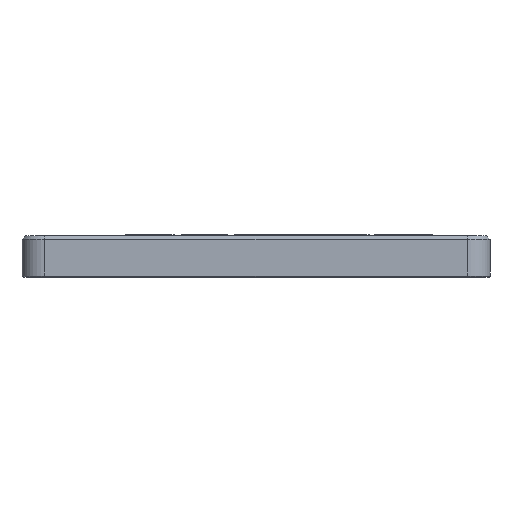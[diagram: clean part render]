
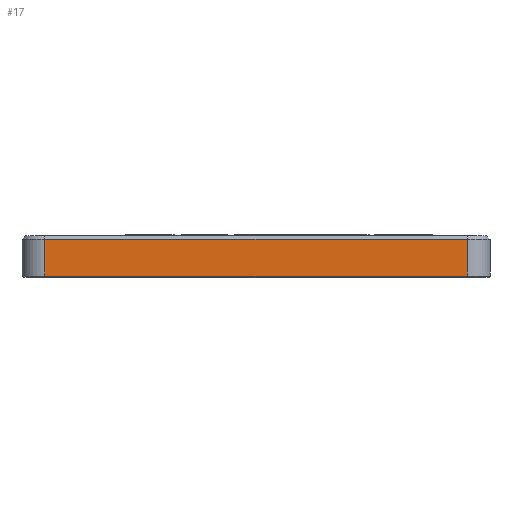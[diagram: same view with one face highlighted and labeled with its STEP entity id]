
A CAD part, left-side view. The second image highlights one B-rep face of the part: STEP entity #17.
In plain terms, the highlighted planar face has unit normal (-1, 0, 0).
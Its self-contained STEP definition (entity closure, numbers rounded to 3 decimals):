
#17 = ADVANCED_FACE('',(#18),#32,.T.);
#18 = FACE_BOUND('',#19,.T.);
#19 = EDGE_LOOP('',(#20,#55,#83,#111));
#20 = ORIENTED_EDGE('',*,*,#21,.T.);
#21 = EDGE_CURVE('',#22,#24,#26,.T.);
#22 = VERTEX_POINT('',#23);
#23 = CARTESIAN_POINT('',(-30.,-46.,1.3));
#24 = VERTEX_POINT('',#25);
#25 = CARTESIAN_POINT('',(-30.,-46.,9.3));
#26 = SURFACE_CURVE('',#27,(#31,#43),.PCURVE_S1.);
#27 = LINE('',#28,#29);
#28 = CARTESIAN_POINT('',(-30.,-46.,1.));
#29 = VECTOR('',#30,1.);
#30 = DIRECTION('',(0.,0.,1.));
#31 = PCURVE('',#32,#37);
#32 = PLANE('',#33);
#33 = AXIS2_PLACEMENT_3D('',#34,#35,#36);
#34 = CARTESIAN_POINT('',(-30.,-46.,1.));
#35 = DIRECTION('',(-1.,0.,0.));
#36 = DIRECTION('',(0.,1.,0.));
#37 = DEFINITIONAL_REPRESENTATION('',(#38),#42);
#38 = LINE('',#39,#40);
#39 = CARTESIAN_POINT('',(0.,0.));
#40 = VECTOR('',#41,1.);
#41 = DIRECTION('',(0.,-1.));
#42 = ( GEOMETRIC_REPRESENTATION_CONTEXT(2) 
PARAMETRIC_REPRESENTATION_CONTEXT() REPRESENTATION_CONTEXT('2D SPACE',''
  ) );
#43 = PCURVE('',#44,#49);
#44 = CYLINDRICAL_SURFACE('',#45,5.);
#45 = AXIS2_PLACEMENT_3D('',#46,#47,#48);
#46 = CARTESIAN_POINT('',(-25.,-46.,1.));
#47 = DIRECTION('',(0.,0.,-1.));
#48 = DIRECTION('',(-1.,0.,0.));
#49 = DEFINITIONAL_REPRESENTATION('',(#50),#54);
#50 = LINE('',#51,#52);
#51 = CARTESIAN_POINT('',(6.283,0.));
#52 = VECTOR('',#53,1.);
#53 = DIRECTION('',(0.,-1.));
#54 = ( GEOMETRIC_REPRESENTATION_CONTEXT(2) 
PARAMETRIC_REPRESENTATION_CONTEXT() REPRESENTATION_CONTEXT('2D SPACE',''
  ) );
#55 = ORIENTED_EDGE('',*,*,#56,.T.);
#56 = EDGE_CURVE('',#24,#57,#59,.T.);
#57 = VERTEX_POINT('',#58);
#58 = CARTESIAN_POINT('',(-30.,46.,9.3));
#59 = SURFACE_CURVE('',#60,(#64,#71),.PCURVE_S1.);
#60 = LINE('',#61,#62);
#61 = CARTESIAN_POINT('',(-30.,-46.,9.3));
#62 = VECTOR('',#63,1.);
#63 = DIRECTION('',(0.,1.,0.));
#64 = PCURVE('',#32,#65);
#65 = DEFINITIONAL_REPRESENTATION('',(#66),#70);
#66 = LINE('',#67,#68);
#67 = CARTESIAN_POINT('',(0.,-8.3));
#68 = VECTOR('',#69,1.);
#69 = DIRECTION('',(1.,0.));
#70 = ( GEOMETRIC_REPRESENTATION_CONTEXT(2) 
PARAMETRIC_REPRESENTATION_CONTEXT() REPRESENTATION_CONTEXT('2D SPACE',''
  ) );
#71 = PCURVE('',#72,#77);
#72 = PLANE('',#73);
#73 = AXIS2_PLACEMENT_3D('',#74,#75,#76);
#74 = CARTESIAN_POINT('',(-29.6,-46.,9.7));
#75 = DIRECTION('',(-0.707,0.,0.707)
  );
#76 = DIRECTION('',(0.,-1.,0.));
#77 = DEFINITIONAL_REPRESENTATION('',(#78),#82);
#78 = LINE('',#79,#80);
#79 = CARTESIAN_POINT('',(-0.,-0.566));
#80 = VECTOR('',#81,1.);
#81 = DIRECTION('',(-1.,0.));
#82 = ( GEOMETRIC_REPRESENTATION_CONTEXT(2) 
PARAMETRIC_REPRESENTATION_CONTEXT() REPRESENTATION_CONTEXT('2D SPACE',''
  ) );
#83 = ORIENTED_EDGE('',*,*,#84,.F.);
#84 = EDGE_CURVE('',#85,#57,#87,.T.);
#85 = VERTEX_POINT('',#86);
#86 = CARTESIAN_POINT('',(-30.,46.,1.3));
#87 = SURFACE_CURVE('',#88,(#92,#99),.PCURVE_S1.);
#88 = LINE('',#89,#90);
#89 = CARTESIAN_POINT('',(-30.,46.,1.));
#90 = VECTOR('',#91,1.);
#91 = DIRECTION('',(0.,0.,1.));
#92 = PCURVE('',#32,#93);
#93 = DEFINITIONAL_REPRESENTATION('',(#94),#98);
#94 = LINE('',#95,#96);
#95 = CARTESIAN_POINT('',(92.,0.));
#96 = VECTOR('',#97,1.);
#97 = DIRECTION('',(0.,-1.));
#98 = ( GEOMETRIC_REPRESENTATION_CONTEXT(2) 
PARAMETRIC_REPRESENTATION_CONTEXT() REPRESENTATION_CONTEXT('2D SPACE',''
  ) );
#99 = PCURVE('',#100,#105);
#100 = CYLINDRICAL_SURFACE('',#101,5.);
#101 = AXIS2_PLACEMENT_3D('',#102,#103,#104);
#102 = CARTESIAN_POINT('',(-25.,46.,1.));
#103 = DIRECTION('',(0.,0.,-1.));
#104 = DIRECTION('',(-1.,0.,0.));
#105 = DEFINITIONAL_REPRESENTATION('',(#106),#110);
#106 = LINE('',#107,#108);
#107 = CARTESIAN_POINT('',(0.,0.));
#108 = VECTOR('',#109,1.);
#109 = DIRECTION('',(0.,-1.));
#110 = ( GEOMETRIC_REPRESENTATION_CONTEXT(2) 
PARAMETRIC_REPRESENTATION_CONTEXT() REPRESENTATION_CONTEXT('2D SPACE',''
  ) );
#111 = ORIENTED_EDGE('',*,*,#112,.F.);
#112 = EDGE_CURVE('',#22,#85,#113,.T.);
#113 = SURFACE_CURVE('',#114,(#118,#125),.PCURVE_S1.);
#114 = LINE('',#115,#116);
#115 = CARTESIAN_POINT('',(-30.,-46.,1.3));
#116 = VECTOR('',#117,1.);
#117 = DIRECTION('',(0.,1.,0.));
#118 = PCURVE('',#32,#119);
#119 = DEFINITIONAL_REPRESENTATION('',(#120),#124);
#120 = LINE('',#121,#122);
#121 = CARTESIAN_POINT('',(0.,-0.3));
#122 = VECTOR('',#123,1.);
#123 = DIRECTION('',(1.,0.));
#124 = ( GEOMETRIC_REPRESENTATION_CONTEXT(2) 
PARAMETRIC_REPRESENTATION_CONTEXT() REPRESENTATION_CONTEXT('2D SPACE',''
  ) );
#125 = PCURVE('',#126,#131);
#126 = PLANE('',#127);
#127 = AXIS2_PLACEMENT_3D('',#128,#129,#130);
#128 = CARTESIAN_POINT('',(-29.85,-46.,1.15));
#129 = DIRECTION('',(0.707,0.,0.707)
  );
#130 = DIRECTION('',(0.,-1.,0.));
#131 = DEFINITIONAL_REPRESENTATION('',(#132),#136);
#132 = LINE('',#133,#134);
#133 = CARTESIAN_POINT('',(-0.,-0.212));
#134 = VECTOR('',#135,1.);
#135 = DIRECTION('',(-1.,0.));
#136 = ( GEOMETRIC_REPRESENTATION_CONTEXT(2) 
PARAMETRIC_REPRESENTATION_CONTEXT() REPRESENTATION_CONTEXT('2D SPACE',''
  ) );
